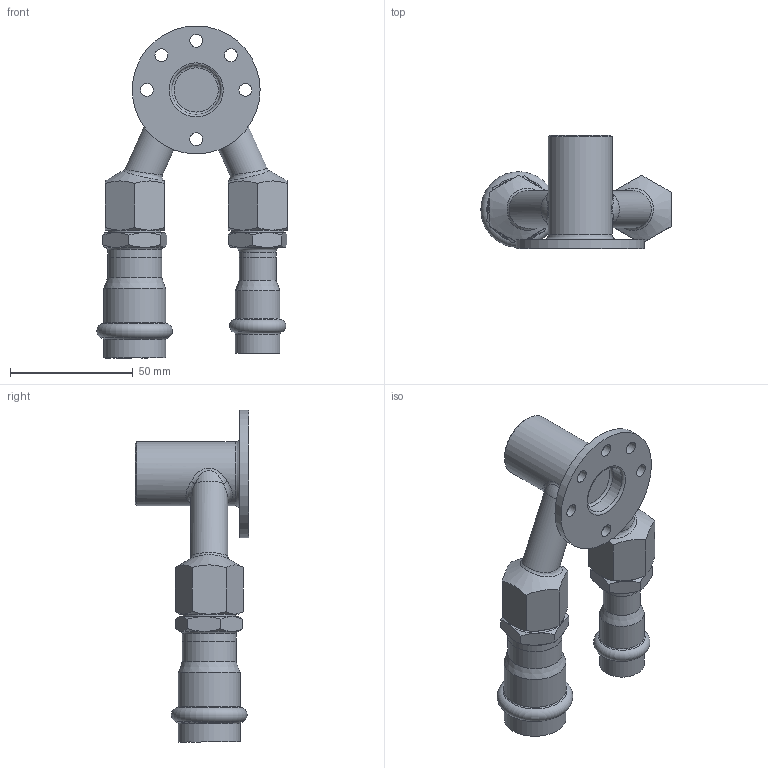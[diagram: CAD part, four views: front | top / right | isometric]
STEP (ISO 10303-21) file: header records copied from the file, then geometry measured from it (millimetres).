
FILE_DESCRIPTION((''),'2;1');
FILE_NAME('G:\Nirosan-Schmiedefeld\Technics\CAD\001 Serie 9.000\69478GZ\69478GZ151222H(1).stp','2019-01-02T12:40:20',('herberg'),(''),'Autodesk Inventor 2009','Autodesk Inventor 2009','');
FILE_SCHEMA(('AUTOMOTIVE_DESIGN { 1 0 10303 214 1 1 1 1 }'));
Length unit declared in the file: millimetre
Products named in the file (8): 69478GZ151222H(1); 69478igz12h(0); 69243G1512H(3); 69HM15P(0); AG1512(1); 69243G2212H(2); 69HM22P(1); AG2212(0)
Assembly tree (7 placements, depth 3):
  69478GZ151222H(1)
    69478igz12h(0)
    69243G1512H(3)
      69HM15P(0)
      AG1512(1)
    69243G2212H(2)
      69HM22P(1)
      AG2212(0)
Bounding box: 77.39 x 46 x 135 mm (x, y, z)
Volume: 50425.5 mm3; surface area: 39729.7 mm2
Topology: 5 solids, 5 shells, 161 faces, 370 edges, 225 vertices
Faces by surface type: cone 52, plane 42, bspline 36, cylinder 22, torus 9
Full cylindrical faces by diameter (mm): 11 x2, 12 x1, 15 x4, 15.15 x2, 18.15 x2, 18.631 x1, 19 x1, 20 x1, 22 x2, 22.15 x2, 25.15 x2, 26 x1, 52 x1
Entity records: 7436 total; most frequent: CARTESIAN_POINT 4335, DIRECTION 572, ORIENTED_EDGE 552, EDGE_CURVE 276, AXIS2_PLACEMENT_3D 274, EDGE_LOOP 264, VERTEX_POINT 204, FACE_OUTER_BOUND 161
